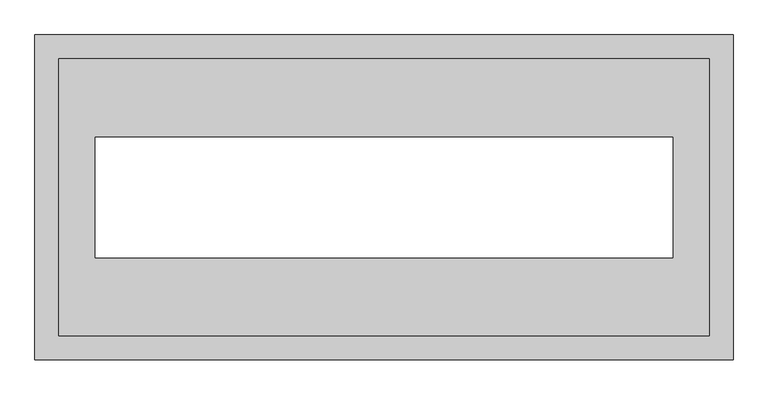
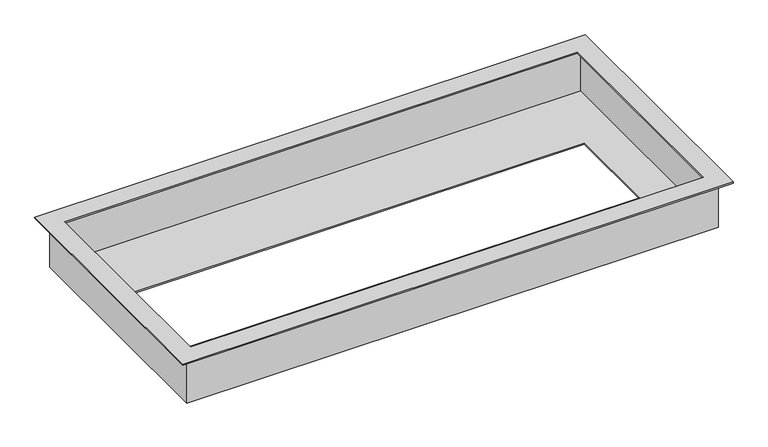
"""IFC4 building model written with IfcOpenShell, lengths in millimetres: light fixture geometry, Zumtobel CR2P MOUNTING FRAME : CR2PL L MOUNTING FRAME."""

from ifc_helpers import new_model, si_unit, origin, place, context, project, spatial, faceted_brep, source, transform, mapped, element, save


def light_fixture_d2eb8d60(model_context):
    return source(origin(), model_context, "Body", "Brep", [
        faceted_brep([(-180.4999952, -270.0, 2.9939766), (-180.4999952, -270.0, 0.0), (979.5000048, -270.0, 0.0), (979.5000048, -270.0, 2.9939766), (-157.4999952, -247.0, 0.0), (956.5000048, -247.0, 0.0), (956.5000048, -247.0, -100.0), (-157.4999952, -247.0, -100.0), (-160.4999952, -250.0, -103.0060234), (959.5000048, -250.0, -103.0060234), (959.5000048, -250.0, -100.0), (959.5000048, -250.0, 0.0), (-160.4999952, -250.0, 0.0), (-160.4999952, -250.0, -100.0), (979.5000048, 270.0, 0.0), (979.5000048, 270.0, 2.9939766), (956.5000048, 247.0, 0.0), (956.5000048, 247.0, -100.0), (959.5000048, 250.0, -103.0060234), (959.5000048, 250.0, -100.0), (959.5000048, 250.0, 0.0), (-180.4999952, 270.0, 0.0), (-180.4999952, 270.0, 2.9939766), (-157.4999952, 247.0, 0.0), (-157.4999952, 247.0, -100.0), (-160.4999952, 250.0, -103.0060234), (-160.4999952, 250.0, -100.0), (-160.4999952, 250.0, 0.0), (-140.4999952, -230.0, 2.9939766), (-140.4999952, 230.0, 2.9939766), (939.5000048, 230.0, 2.9939766), (939.5000048, -230.0, 2.9939766), (879.5000048, 100.0, -103.0060234), (-80.4999952, 100.0, -103.0060234), (-80.4999952, -100.0, -103.0060234), (879.5000048, -100.0, -103.0060234), (939.5000048, -230.0, 0.0), (-140.4999952, -230.0, 0.0), (939.5000048, 230.0, 0.0), (-140.4999952, 230.0, 0.0), (879.5000048, 100.0, -100.0), (879.5000048, -100.0, -100.0), (-80.4999952, -100.0, -100.0), (-80.4999952, 100.0, -100.0)], [[[0, 1, 2, 3]], [[4, 5, 6, 7]], [[8, 9, 10, 11, 12, 13]], [[3, 2, 14, 15]], [[5, 16, 17, 6]], [[9, 18, 19, 20, 11, 10]], [[15, 14, 21, 22]], [[16, 23, 24, 17]], [[18, 25, 26, 27, 20, 19]], [[1, 0, 22, 21]], [[0, 3, 15, 22], [28, 29, 30, 31]], [[23, 4, 7, 24]], [[9, 8, 25, 18], [32, 33, 34, 35]], [[25, 8, 13, 12, 27, 26]], [[2, 1, 21, 14], [12, 11, 20, 27]], [[28, 31, 36, 37]], [[31, 30, 38, 36]], [[30, 29, 39, 38]], [[29, 28, 37, 39]], [[5, 4, 23, 16], [37, 36, 38, 39]], [[7, 6, 17, 24], [40, 41, 42, 43]], [[41, 40, 32, 35]], [[42, 41, 35, 34]], [[43, 42, 34, 33]], [[40, 43, 33, 32]]]),
    ])


if __name__ == "__main__":
    model = new_model("IFC4")
    model_context = context("Model", 3, world=origin())
    ifc_project = project(units=[si_unit("LENGTHUNIT", "METRE", prefix="MILLI")], contexts=[model_context])
    site = spatial("IfcSite", under=ifc_project)
    building = spatial("IfcBuilding", under=site)
    placement = place(None, origin())
    light_fixture_shape = light_fixture_d2eb8d60(model_context)
    element("IfcLightFixture", 1, ObjectType="Zumtobel CR2P MOUNTING FRAME : CR2PL L MOUNTING FRAME", at=placement, inside=building, context=model_context, shape_type="MappedRepresentation", body=[
        mapped(light_fixture_shape, transform((0.0, 0.0, 0.0), x_axis=(1.0, 0.0, 0.0), y_axis=(0.0, 1.0, 0.0), z_axis=(0.0, 0.0, 1.0))),
    ])
    save(model, "model.ifc")
